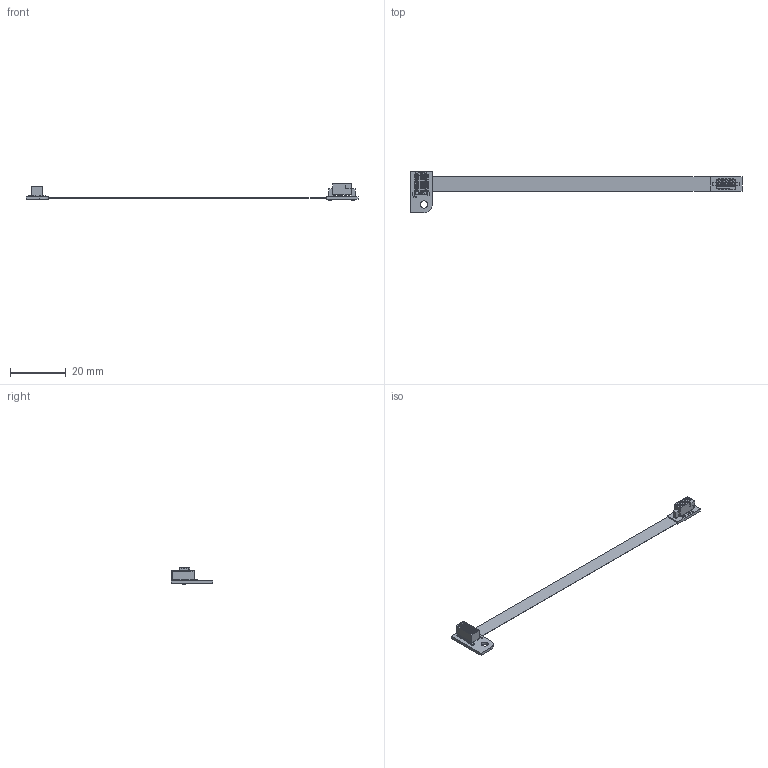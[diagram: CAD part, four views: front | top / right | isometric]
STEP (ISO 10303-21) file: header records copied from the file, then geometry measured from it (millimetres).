
FILE_DESCRIPTION(/* description */ (''),/* implementation_level */ '2;1');
FILE_NAME(/* name */ 'D:\svn\PNI1_Development\Hardware\Components\ASY_Assemblies\ASY_000424\mech\LAY_000424.stp',/* time_stamp */ '2021-03-13T11:39:33+01:00',/* author */ ('vismrl'),/* organization */ (''),/* preprocessor_version */ 'ST-DEVELOPER v17.2',/* originating_system */ 'Autodesk Inventor 2019',/* authorisation */ '');
FILE_SCHEMA (('AUTOMOTIVE_DESIGN { 1 0 10303 214 3 1 1 }'));
Length unit declared in the file: millimetre
Products named in the file (1): LAY_000424
Bounding box: 119.5 x 15 x 5.84 mm (x, y, z)
Volume: 378.4 mm3; surface area: 2108.4 mm2
Topology: 16 solids, 16 shells, 1107 faces, 3092 edges, 2008 vertices
Faces by surface type: plane 1027, cylinder 76, bspline 2, torus 2
Full cylindrical faces by diameter (mm): 0.65 x20, 1.27 x2, 1.35 x2, 2.6 x1
Entity records: 35300 total; most frequent: CARTESIAN_POINT 6234, ORIENTED_EDGE 6184, DIRECTION 5468, EDGE_CURVE 3092, LINE 2920, VECTOR 2920, VERTEX_POINT 2008, AXIS2_PLACEMENT_3D 1274
